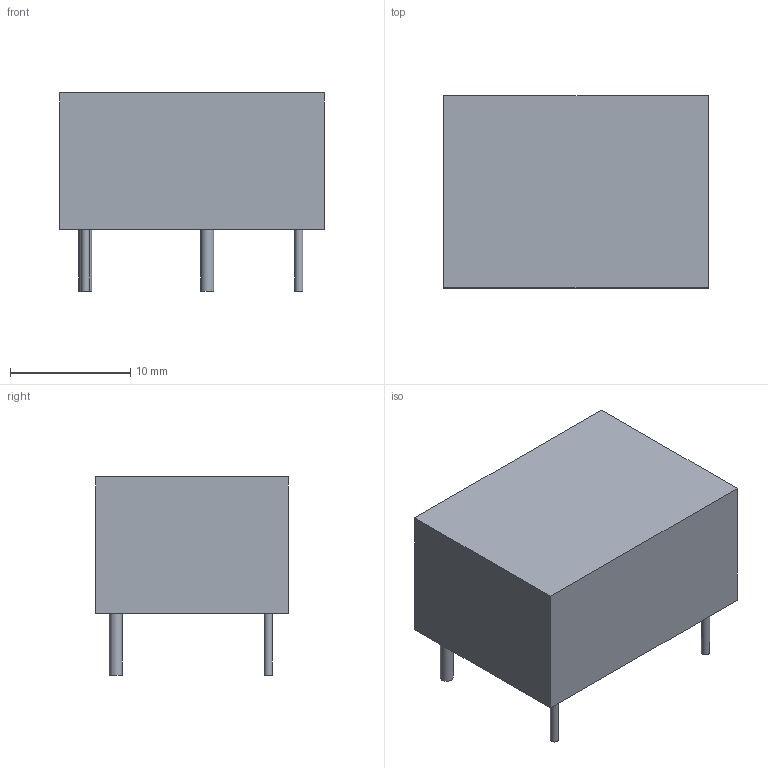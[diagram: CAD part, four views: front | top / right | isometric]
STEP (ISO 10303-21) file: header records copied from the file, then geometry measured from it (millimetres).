
FILE_DESCRIPTION(('FreeCAD Model'),'2;1');
FILE_NAME('/var/www/3D/0T/19258155.1.3.stp','2024-03-11T22:02:46',( 'Author'),(''),'Open CASCADE STEP processor 6.9','FreeCAD','Unknown' );
FILE_SCHEMA(('AUTOMOTIVE_DESIGN { 1 0 10303 214 1 1 1 1 }'));
Length unit declared in the file: millimetre
Products named in the file (3): ASSEMBLY; Body; Leads
Assembly tree (2 placements, depth 2):
  ASSEMBLY
    Body
    Leads
Bounding box: 22 x 16 x 16.5 mm (x, y, z)
Volume: 4026.4 mm3; surface area: 1633.4 mm2
Topology: 5 solids, 5 shells, 18 faces, 24 edges, 16 vertices
Faces by surface type: plane 14, cylinder 4
Full cylindrical faces by diameter (mm): 0.7 x2, 1.1 x2
Entity records: 775 total; most frequent: DIRECTION 122, CARTESIAN_POINT 109, LINE 56, VECTOR 56, ORIENTED_EDGE 48, PCURVE 48, DEFINITIONAL_REPRESENTATION 48, AXIS2_PLACEMENT_3D 29
